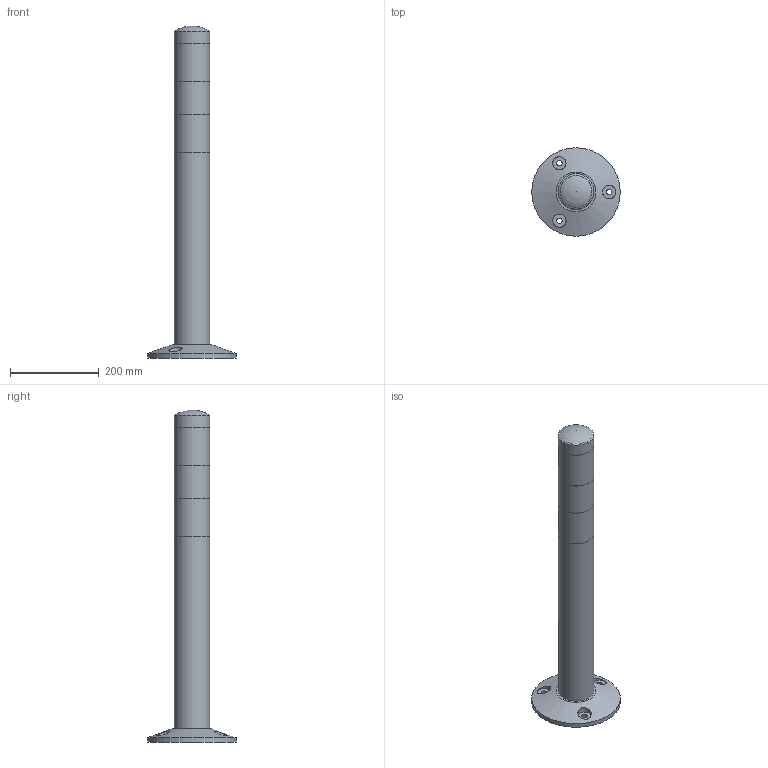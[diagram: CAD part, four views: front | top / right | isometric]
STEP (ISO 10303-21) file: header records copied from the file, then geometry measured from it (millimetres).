
FILE_DESCRIPTION(('FreeCAD Model'),'2;1');
FILE_NAME('Open CASCADE Shape Model','2026-10-04T02:55:06',('FreeCAD'),( 'FreeCAD'),'Open CASCADE STEP processor 7.8','FreeCAD','Unknown');
FILE_SCHEMA(('AUTOMOTIVE_DESIGN { 1 0 10303 214 1 1 1 1 }'));
Length unit declared in the file: millimetre
Products named in the file (1): Open CASCADE STEP translator 7.8 1
Bounding box: 200 x 200 x 750 mm (x, y, z)
Volume: 1307959.7 mm3; surface area: 514467.1 mm2
Topology: 4 solids, 4 shells, 36 faces, 63 edges, 42 vertices
Faces by surface type: cylinder 18, plane 16, cone 1, sphere 1
Full cylindrical faces by diameter (mm): 12 x3, 30 x3, 72 x1, 79.2 x4, 80 x6, 200 x1
Entity records: 1442 total; most frequent: CARTESIAN_POINT 687, DIRECTION 170, ORIENTED_EDGE 124, AXIS2_PLACEMENT_3D 75, EDGE_CURVE 62, FACE_BOUND 54, EDGE_LOOP 54, VERTEX_POINT 42
